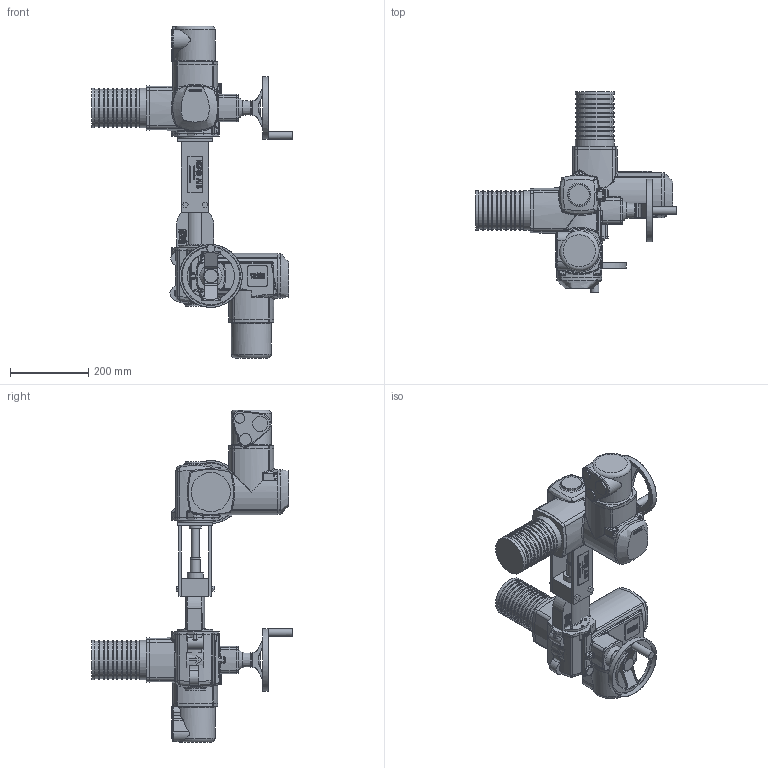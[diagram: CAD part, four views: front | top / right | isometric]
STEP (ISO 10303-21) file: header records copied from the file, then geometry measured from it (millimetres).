
FILE_DESCRIPTION( ( 'Unknown' ), '1' );
FILE_NAME( 'J:/Muud/ROOTSI BPS 3D vidinad/Nugasiibrid/Knife gate valve with electric actuator BPS/STEP formaat/BPS 2010050E knife gate valve DN50.stp', 'Unknown', ( 'Unknown' ), ( 'Unknown' ), 'PSStep 10.1', 'Unknown', ' ' );
FILE_SCHEMA( ( 'AUTOMOTIVE_DESIGN { 1 0 10303 214 1 1 1 1 }' ) );
Length unit declared in the file: millimetre
Products named in the file (3): Assem1; Knife gate valve for electric drive DN50 BPS; AUMA electric actuator sa07.1(sa07.5)-oa0
Bounding box: 511.9 x 511.9 x 846 mm (x, y, z)
Volume: 17566732.5 mm3; surface area: 1099743.1 mm2
Topology: 4 solids, 4 shells, 2804 faces, 6736 edges, 4212 vertices
Faces by surface type: extrusion 1044, plane 598, cylinder 540, bspline 330, cone 154, torus 92, sphere 46
Full cylindrical faces by diameter (mm): 4.917 x8, 6.647 x8, 13.835 x4, 19 x4, 20 x6, 24 x4, 25 x4, 25.5 x2, 30 x8, 34 x2, 38.3 x2, 40 x2, 50 x4, 51.5 x2, 55 x2, 90 x2, 95 x20, 100 x22, 102 x2, 120 x2, 160 x2
Entity records: 71467 total; most frequent: CARTESIAN_POINT 30614, ORIENTED_EDGE 6410, DIRECTION 4780, EDGE_CURVE 3205, VERTEX_POINT 2079, VECTOR 1918, EDGE_LOOP 1680, B_SPLINE_CURVE_WITH_KNOTS 1618
